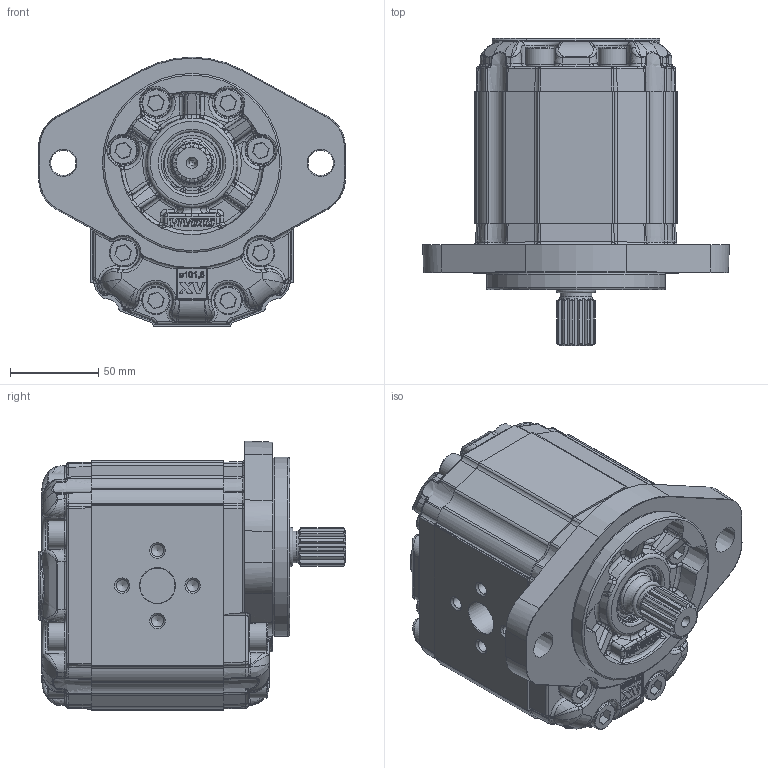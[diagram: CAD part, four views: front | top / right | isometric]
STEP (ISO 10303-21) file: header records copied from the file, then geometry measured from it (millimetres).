
FILE_DESCRIPTION(/* description */ ('Unknown'),/* implementation_level */ '2;1');
FILE_NAME(/* name */ 'X3P7231IAAA',/* time_stamp */ '2021-03-29T11:41:01+02:00',/* author */ ('Unknown'),/* organization */ ('Unknown'),/* preprocessor_version */ 'ST-DEVELOPER v16.7',/* originating_system */ 'Solid Edge',/* authorisation */ 'Unknown');
FILE_SCHEMA (('AUTOMOTIVE_DESIGN {1 0 10303 214 3 1 1}'));
Products named in the file (5): X3P7231IAAA; X3P31; 3I; X3AAH75; XP331-A
Assembly tree (4 placements, depth 2):
  X3P7231IAAA
    X3P31
    3I
    X3AAH75
    XP331-A
Bounding box: 174 x 174.2 x 153 mm (x, y, z)
Volume: 1919043.9 mm3; surface area: 201167.4 mm2
Topology: 4 solids, 21 shells, 3062 faces, 7898 edges, 4993 vertices
Faces by surface type: bspline 1317, plane 876, cylinder 654, cone 105, torus 94, sphere 16
Full cylindrical faces by diameter (mm): 2 x2, 6.8 x8, 10 x16, 15.8 x16, 16 x16, 18 x2, 20 x2, 24.98 x1, 25 x2, 25.968 x1, 28.16 x1, 31.293 x1, 32.742 x1, 34.956 x1, 35 x1, 35.2 x1, 37 x1, 101.6 x1
Entity records: 162906 total; most frequent: CARTESIAN_POINT 82491, ORIENTED_EDGE 15348, EDGE_CURVE 7674, DIRECTION 6756, B_SPLINE_CURVE_WITH_KNOTS 4985, VERTEX_POINT 4932, FACE_BOUND 3354, EDGE_LOOP 3344
